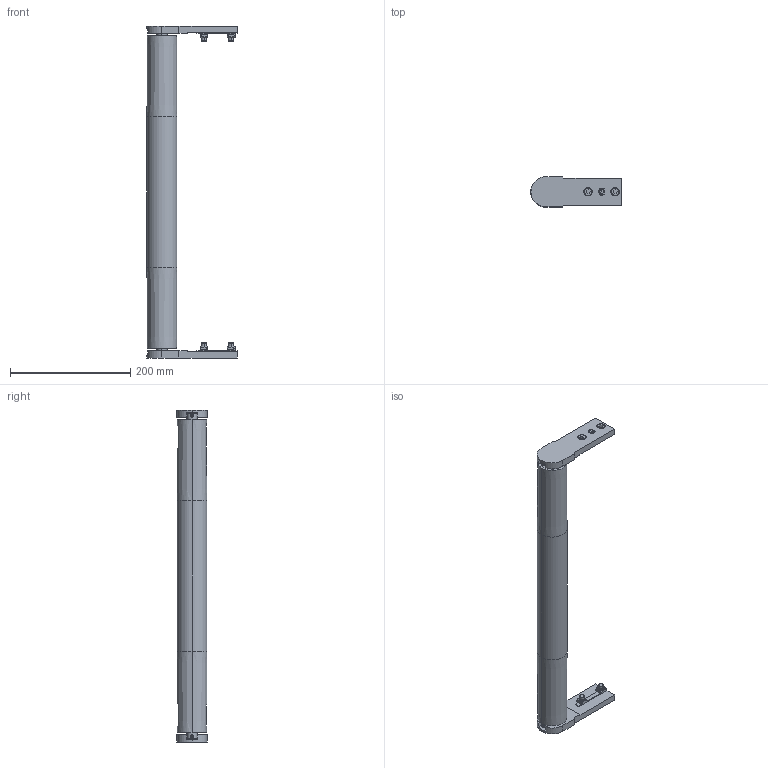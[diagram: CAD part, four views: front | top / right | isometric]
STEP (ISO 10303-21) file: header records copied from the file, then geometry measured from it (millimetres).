
FILE_DESCRIPTION (( 'STEP AP203' ), '1' );
FILE_NAME ('084.050.KIO.500.STEP', '2019-07-29T13:03:06', ( '' ), ( '' ), 'SwSTEP 2.0', 'SolidWorks 2018', '' );
FILE_SCHEMA (( 'CONFIG_CONTROL_DESIGN' ));
Length unit declared in the file: millimetre
Products named in the file (9): 084.826.042; CUSCINETTI A SFERE INOX_6203-2RS INOX; 084.050.KIO.500; 084.807.014_084.807.002; 084.301.000 VITI ALUSIC_084.301.003; 084.302.000 DADI ALUSIC 13x13-1_084.302.003; circlip for shafts normal_din_PreviewCfg; 084.826.041; GRANI A PUNTA CONICA UNI 5927 INOX_M6x40 UNI 5927 INOX
Assembly tree (18 placements, depth 2):
  084.050.KIO.500
    084.826.042
    084.826.041
    084.807.014_084.807.002  x2
    084.301.000 VITI ALUSIC_084.301.003  x4
    084.302.000 DADI ALUSIC 13x13-1_084.302.003  x4
    CUSCINETTI A SFERE INOX_6203-2RS INOX  x2
    circlip for shafts normal_din_PreviewCfg  x2
    GRANI A PUNTA CONICA UNI 5927 INOX_M6x40 UNI 5927 INOX  x2
Bounding box: 150 x 50 x 552 mm (x, y, z)
Volume: 756316.1 mm3; surface area: 226918.9 mm2
Topology: 18 solids, 18 shells, 426 faces, 1032 edges, 672 vertices
Faces by surface type: plane 180, cylinder 112, cone 48, bspline 46, torus 40
Entity records: 7624 total; most frequent: CARTESIAN_POINT 1668, DIRECTION 993, ORIENTED_EDGE 966, EDGE_CURVE 483, AXIS2_PLACEMENT_3D 379, VERTEX_POINT 314, EDGE_LOOP 235, VECTOR 235
